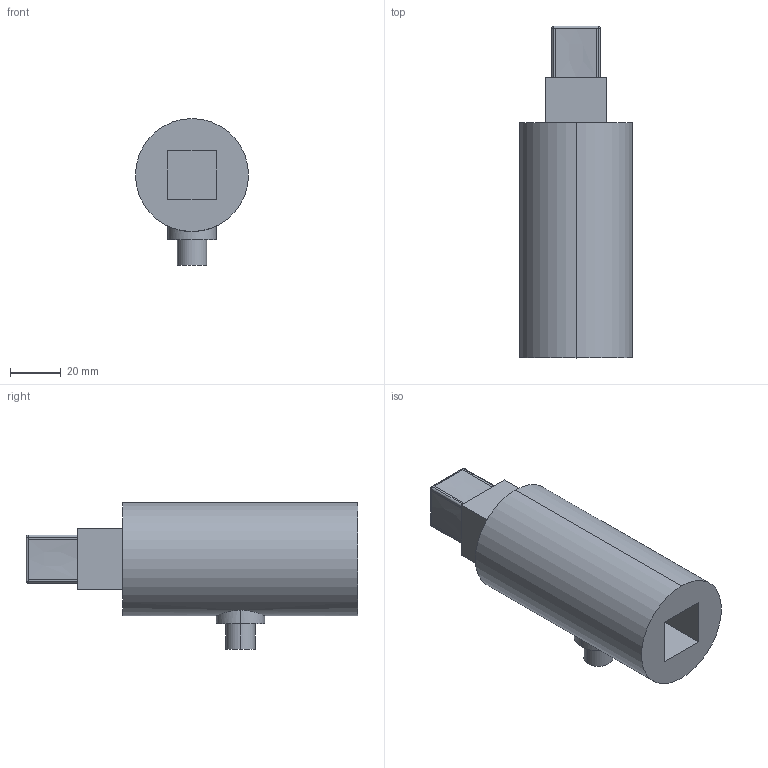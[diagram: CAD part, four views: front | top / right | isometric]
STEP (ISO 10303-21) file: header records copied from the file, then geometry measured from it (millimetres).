
FILE_DESCRIPTION (( 'STEP AP214' ), '1' );
FILE_NAME ('SS1135F375LB-FT.STEP', '2024-09-16T13:13:06', ( '' ), ( '' ), 'SwSTEP 2.0', 'SolidWorks 2008', '' );
FILE_SCHEMA (( 'AUTOMOTIVE_DESIGN' ));
Length unit declared in the file: inch
Products named in the file (1): SS1135F375LB-FT
Bounding box: 44.45 x 130.56 x 57.78 mm (x, y, z)
Volume: 153790.8 mm3; surface area: 21797.3 mm2
Topology: 1 solids, 1 shells, 49 faces, 113 edges, 66 vertices
Faces by surface type: plane 27, cylinder 14, bspline 4, sphere 4
Entity records: 1516 total; most frequent: CARTESIAN_POINT 437, ORIENTED_EDGE 218, DIRECTION 207, EDGE_CURVE 109, AXIS2_PLACEMENT_3D 72, VERTEX_POINT 66, VECTOR 63, LINE 63
